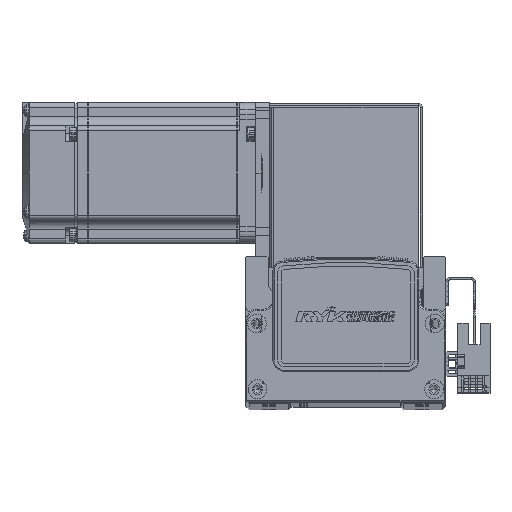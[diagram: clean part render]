
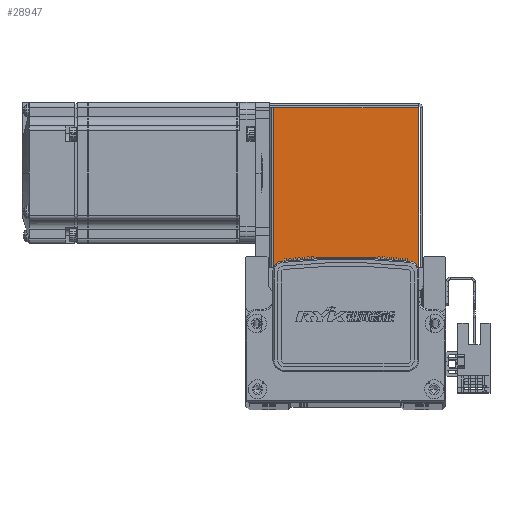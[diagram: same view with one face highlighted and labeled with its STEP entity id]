
A CAD part, top view. The second image highlights one B-rep face of the part: STEP entity #28947.
In plain terms, the highlighted planar face has unit normal (0, 0, 1).
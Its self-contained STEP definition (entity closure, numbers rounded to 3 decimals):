
#3714 = EDGE_LOOP ( 'NONE', ( #57411, #57363, #57365, #57453 ) ) ;
#8137 = PLANE ( 'NONE',  #56441 ) ;
#8147 = DIRECTION ( 'NONE',  ( -1., 0., 0. ) ) ;
#8156 = CARTESIAN_POINT ( 'NONE',  ( 0., 0., 35. ) ) ;
#8172 = DIRECTION ( 'NONE',  ( 0., 0., -1. ) ) ;
#11358 = CARTESIAN_POINT ( 'NONE',  ( -30.793, 0.737, 35. ) ) ;
#11383 = CARTESIAN_POINT ( 'NONE',  ( 30.763, 68.5, 35. ) ) ;
#11390 = CARTESIAN_POINT ( 'NONE',  ( 30.763, 0.737, 35. ) ) ;
#11533 = CARTESIAN_POINT ( 'NONE',  ( -30.793, 68.5, 35. ) ) ;
#28947 = ADVANCED_FACE ( 'NONE', ( #57137 ), #8137, .F. ) ;
#50193 = EDGE_CURVE ( 'NONE', #58707, #58563, #78490, .T. ) ;
#50209 = EDGE_CURVE ( 'NONE', #58563, #58721, #78494, .T. ) ;
#50237 = EDGE_CURVE ( 'NONE', #58707, #58659, #78569, .T. ) ;
#50239 = EDGE_CURVE ( 'NONE', #58659, #58721, #78542, .T. ) ;
#56441 = AXIS2_PLACEMENT_3D ( 'NONE', #8156, #8172, #8147 ) ;
#57137 = FACE_OUTER_BOUND ( 'NONE', #3714, .T. ) ;
#57363 = ORIENTED_EDGE ( 'NONE', *, *, #50239, .T. ) ;
#57365 = ORIENTED_EDGE ( 'NONE', *, *, #50209, .F. ) ;
#57411 = ORIENTED_EDGE ( 'NONE', *, *, #50237, .T. ) ;
#57453 = ORIENTED_EDGE ( 'NONE', *, *, #50193, .F. ) ;
#58563 = VERTEX_POINT ( 'NONE', #11358 ) ;
#58659 = VERTEX_POINT ( 'NONE', #11383 ) ;
#58707 = VERTEX_POINT ( 'NONE', #11390 ) ;
#58721 = VERTEX_POINT ( 'NONE', #11533 ) ;
#76878 = DIRECTION ( 'NONE',  ( -1., 0., 0. ) ) ;
#76899 = CARTESIAN_POINT ( 'NONE',  ( -32.5, 0.737, 35. ) ) ;
#76944 = DIRECTION ( 'NONE',  ( 0., 1., 0. ) ) ;
#76957 = CARTESIAN_POINT ( 'NONE',  ( -30.793, 0., 35. ) ) ;
#77022 = DIRECTION ( 'NONE',  ( 0., 1., 0. ) ) ;
#77023 = DIRECTION ( 'NONE',  ( -1., 0., 0. ) ) ;
#77032 = CARTESIAN_POINT ( 'NONE',  ( 30.763, 0.737, 35. ) ) ;
#77034 = CARTESIAN_POINT ( 'NONE',  ( 0., 68.5, 35. ) ) ;
#78480 = VECTOR ( 'NONE', #76878, 1000. ) ;
#78490 = LINE ( 'NONE', #76899, #78480 ) ;
#78494 = LINE ( 'NONE', #76957, #78505 ) ;
#78505 = VECTOR ( 'NONE', #76944, 1000. ) ;
#78542 = LINE ( 'NONE', #77034, #78564 ) ;
#78564 = VECTOR ( 'NONE', #77023, 1000. ) ;
#78569 = LINE ( 'NONE', #77032, #78585 ) ;
#78585 = VECTOR ( 'NONE', #77022, 1000. ) ;
